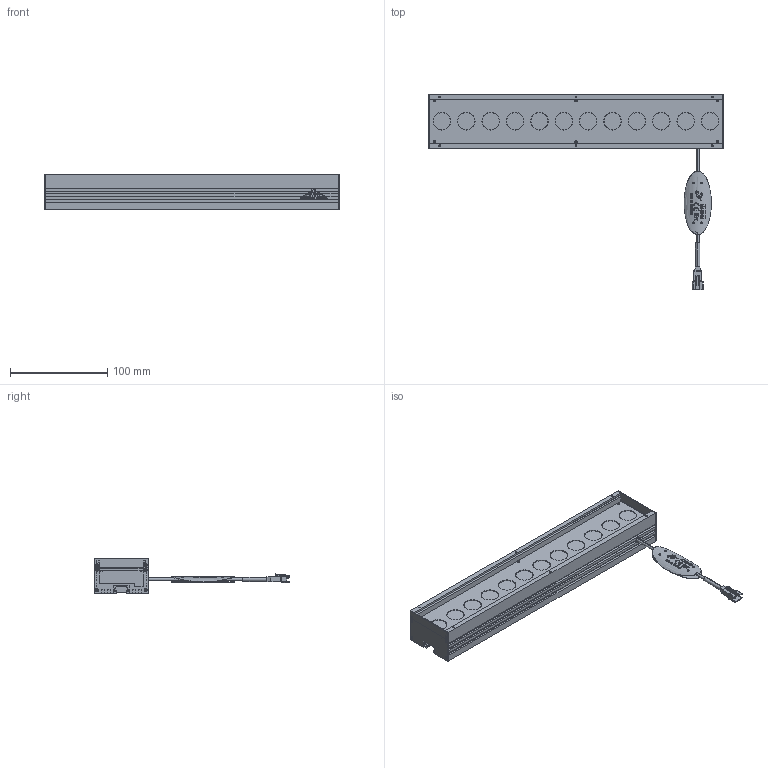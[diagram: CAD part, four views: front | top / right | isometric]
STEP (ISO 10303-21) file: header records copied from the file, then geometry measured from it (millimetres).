
FILE_DESCRIPTION(('STEP AP214'),'1');
FILE_NAME('VBAL-30030_DRAWING_3D.step','2023-10-03T08:17:07',(' '),(' '),'Spatial InterOp 3D',' ',' ');
FILE_SCHEMA(('AUTOMOTIVE_DESIGN { 1 0 10303 214 1 1 1 1 }'));
Length unit declared in the file: millimetre
Products named in the file (12): 3P; CABEL TAG (VS); OSOLRB2030M; HLB308DWDWA03A_SIDE PANEL1; HLB308DWDWA04A_SIDE PANEL2; HLB548DWM02_BASE; HLB548DWM07_F-PANEL; INSULOK; SFB-4A6; MXB0115; MXB4508
Assembly tree (41 placements, depth 2):
  (unnamed)
    3P
    CABEL TAG (VS)
    OSOLRB2030M  x12
    HLB308DWDWA03A_SIDE PANEL1  x2
    HLB308DWDWA04A_SIDE PANEL2  x2
    HLB548DWM02_BASE
    HLB548DWM07_F-PANEL
    INSULOK
    SFB-4A6  x2
    MXB0115  x6
    MXB4508  x12
Bounding box: 302 x 200.2 x 36 mm (x, y, z)
Volume: 228756.2 mm3; surface area: 158716.5 mm2
Topology: 42 solids, 67 shells, 1233 faces, 3304 edges, 2223 vertices
Faces by surface type: plane 624, cylinder 419, cone 120, bspline 42, torus 28
Entity records: 30561 total; most frequent: CARTESIAN_POINT 6538, ORIENTED_EDGE 4020, DIRECTION 3549, EDGE_CURVE 2010, VERTEX_POINT 1437, AXIS2_PLACEMENT_3D 1188, LINE 1173, VECTOR 1173
